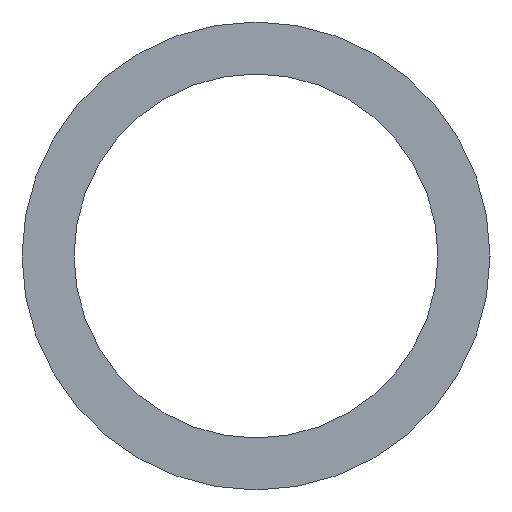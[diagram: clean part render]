
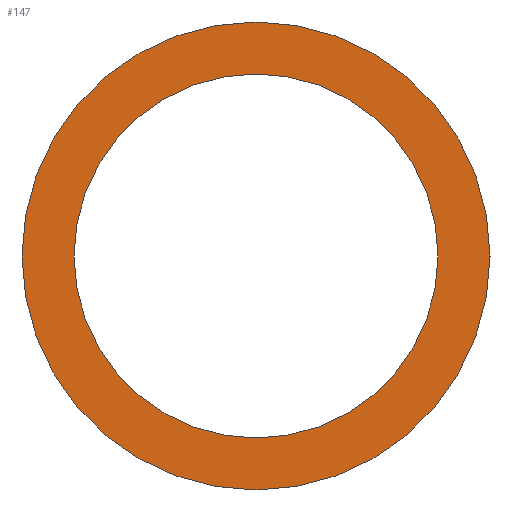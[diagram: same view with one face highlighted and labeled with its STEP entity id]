
A CAD part, left-side view. The second image highlights one B-rep face of the part: STEP entity #147.
In plain terms, the highlighted planar face has unit normal (-1, 0, 0).
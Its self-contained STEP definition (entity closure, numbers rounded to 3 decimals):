
#84=CARTESIAN_POINT('',(0.0,7.0,0.));
#85=VERTEX_POINT('',#84);
#86=CARTESIAN_POINT('',(0.0,0.0,0.0));
#87=DIRECTION('',(1.0,0.0,0.0));
#88=DIRECTION('',(0.0,-1.0,0.0));
#89=AXIS2_PLACEMENT_3D('',#86,#87,#88);
#90=CIRCLE('',#89,7.0);
#91=EDGE_CURVE('',#85,#85,#90,.T.);
#112=CARTESIAN_POINT('',(0.0,9.0,0.));
#113=VERTEX_POINT('',#112);
#114=CARTESIAN_POINT('',(0.0,0.0,0.0));
#115=DIRECTION('',(-1.0,0.0,0.0));
#116=DIRECTION('',(0.0,-1.0,0.0));
#117=AXIS2_PLACEMENT_3D('',#114,#115,#116);
#118=CIRCLE('',#117,9.0);
#119=EDGE_CURVE('',#113,#113,#118,.T.);
#136=CARTESIAN_POINT('',(0.0,0.0,0.0));
#137=DIRECTION('',(-1.0,0.0,0.0));
#138=DIRECTION('',(0.0,0.0,1.0));
#139=AXIS2_PLACEMENT_3D('',#136,#137,#138);
#140=PLANE('',#139);
#141=ORIENTED_EDGE('',*,*,#119,.T.);
#142=EDGE_LOOP('',(#141));
#143=FACE_OUTER_BOUND('',#142,.T.);
#144=ORIENTED_EDGE('',*,*,#91,.T.);
#145=EDGE_LOOP('',(#144));
#146=FACE_BOUND('',#145,.T.);
#147=ADVANCED_FACE('',(#143,#146),#140,.T.);
